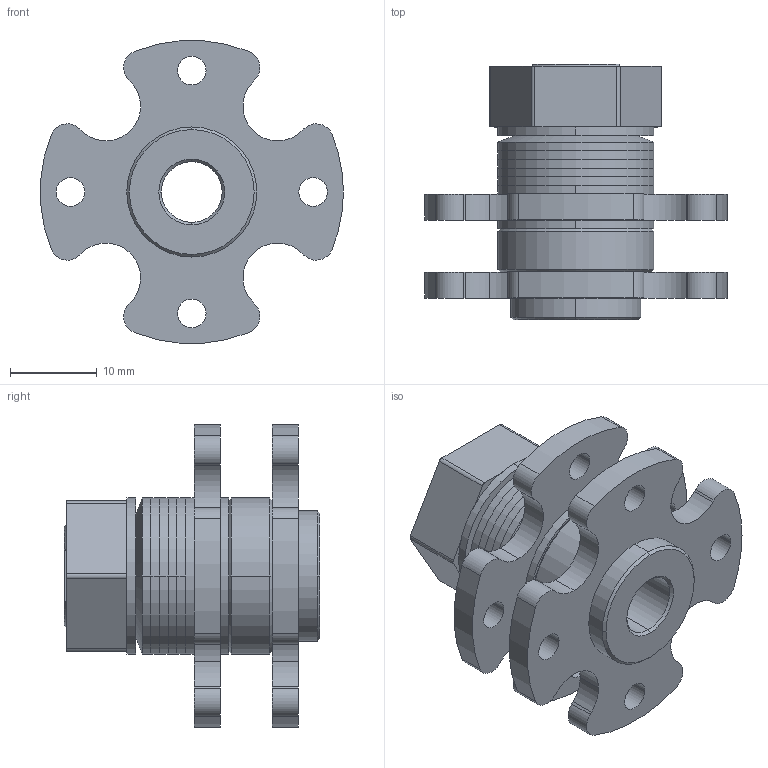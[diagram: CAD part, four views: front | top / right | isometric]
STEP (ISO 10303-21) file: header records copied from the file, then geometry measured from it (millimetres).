
FILE_DESCRIPTION (( 'STEP AP203' ), '1' );
FILE_NAME ('xg11-106.STEP', '2025-04-12T01:37:22', ( '微软用户' ), ( '微软中国' ), 'SwSTEP 2.0', 'SolidWorks 2024', '' );
FILE_SCHEMA (( 'CONFIG_CONTROL_DESIGN' ));
Length unit declared in the file: millimetre
Products named in the file (1): xg11-106
Bounding box: 34.95 x 29.5 x 34.89 mm (x, y, z)
Volume: 8533.9 mm3; surface area: 10507.3 mm2
Topology: 13 solids, 13 shells, 498 faces, 1092 edges, 722 vertices
Faces by surface type: cylinder 304, plane 160, cone 34
Entity records: 14133 total; most frequent: DIRECTION 2742, CARTESIAN_POINT 2329, ORIENTED_EDGE 2184, AXIS2_PLACEMENT_3D 1155, EDGE_CURVE 1092, VERTEX_POINT 722, CIRCLE 656, EDGE_LOOP 642
